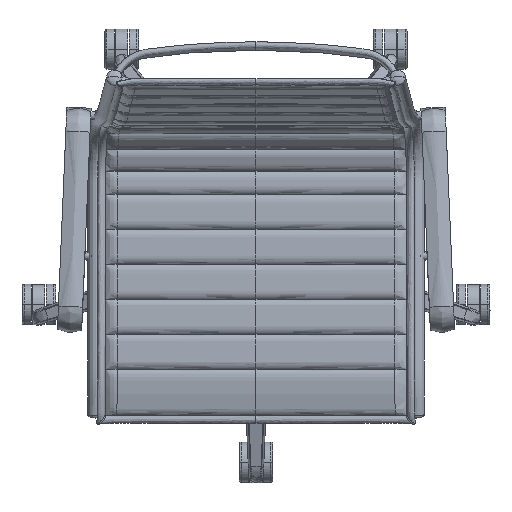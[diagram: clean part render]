
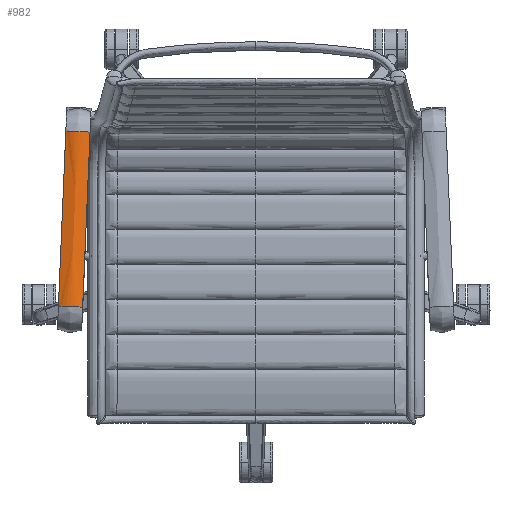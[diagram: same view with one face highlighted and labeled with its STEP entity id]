
A CAD part, top view. The second image highlights one B-rep face of the part: STEP entity #982.
In plain terms, the highlighted free-form (B-spline) face has degree [2, 3] with [3, 4] control points.
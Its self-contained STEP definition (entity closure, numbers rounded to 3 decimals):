
#982=ADVANCED_FACE('',(#1489),#7261,.T.);
#1489=FACE_OUTER_BOUND('',#1999,.T.);
#1999=EDGE_LOOP('',(#3085,#3086,#3087,#3088));
#3085=ORIENTED_EDGE('',*,*,#4930,.T.);
#3086=ORIENTED_EDGE('',*,*,#4934,.F.);
#3087=ORIENTED_EDGE('',*,*,#4933,.F.);
#3088=ORIENTED_EDGE('',*,*,#4932,.F.);
#4930=EDGE_CURVE('',#6621,#6622,#5870,.T.);
#4932=EDGE_CURVE('',#6621,#6623,#5872,.T.);
#4933=EDGE_CURVE('',#6623,#6624,#5873,.T.);
#4934=EDGE_CURVE('',#6624,#6622,#5874,.T.);
#5870=(
BOUNDED_CURVE()
B_SPLINE_CURVE(2,(#24704,#24705,#24706),.UNSPECIFIED.,.F.,.F.)
B_SPLINE_CURVE_WITH_KNOTS((3,3),(0.,37.482),.UNSPECIFIED.)
CURVE()
GEOMETRIC_REPRESENTATION_ITEM()
RATIONAL_B_SPLINE_CURVE((1.,0.882,1.))
REPRESENTATION_ITEM('')
);
#5872=(
BOUNDED_CURVE()
B_SPLINE_CURVE(3,(#24718,#24719,#24720,#24721),.UNSPECIFIED.,.F.,.F.)
B_SPLINE_CURVE_WITH_KNOTS((4,4),(0.,260.717),.UNSPECIFIED.)
CURVE()
GEOMETRIC_REPRESENTATION_ITEM()
RATIONAL_B_SPLINE_CURVE((1.,1.,1.,1.))
REPRESENTATION_ITEM('')
);
#5873=(
BOUNDED_CURVE()
B_SPLINE_CURVE(2,(#24722,#24723,#24724),.UNSPECIFIED.,.F.,.F.)
B_SPLINE_CURVE_WITH_KNOTS((3,3),(0.,37.482),.UNSPECIFIED.)
CURVE()
GEOMETRIC_REPRESENTATION_ITEM()
RATIONAL_B_SPLINE_CURVE((1.,0.882,1.))
REPRESENTATION_ITEM('')
);
#5874=(
BOUNDED_CURVE()
B_SPLINE_CURVE(3,(#24725,#24726,#24727,#24728),.UNSPECIFIED.,.F.,.F.)
B_SPLINE_CURVE_WITH_KNOTS((4,4),(-260.717,0.),.UNSPECIFIED.)
CURVE()
GEOMETRIC_REPRESENTATION_ITEM()
RATIONAL_B_SPLINE_CURVE((1.,1.,1.,1.))
REPRESENTATION_ITEM('')
);
#6621=VERTEX_POINT('',#24476);
#6622=VERTEX_POINT('',#24477);
#6623=VERTEX_POINT('',#24478);
#6624=VERTEX_POINT('',#24479);
#7261=(
BOUNDED_SURFACE()
B_SPLINE_SURFACE(2,3,((#24208,#24209,#24210,#24211),(#24212,#24213,#24214,
#24215),(#24216,#24217,#24218,#24219)),.UNSPECIFIED.,.F.,.F.,.F.)
B_SPLINE_SURFACE_WITH_KNOTS((3,3),(4,4),(0.,37.482),(0.,260.717),
 .UNSPECIFIED.)
GEOMETRIC_REPRESENTATION_ITEM()
RATIONAL_B_SPLINE_SURFACE(((1.,1.,1.,1.),(0.882,0.882,
0.882,0.882),(1.,1.,1.,1.)))
REPRESENTATION_ITEM('')
SURFACE()
);
#24208=CARTESIAN_POINT('',(-293.384,-89.849,688.543));
#24209=CARTESIAN_POINT('',(-289.712,-3.192,683.093));
#24210=CARTESIAN_POINT('',(-286.041,83.465,677.644));
#24211=CARTESIAN_POINT('',(-282.369,170.122,672.195));
#24212=CARTESIAN_POINT('',(-275.382,-90.008,698.138));
#24213=CARTESIAN_POINT('',(-271.711,-3.351,692.689));
#24214=CARTESIAN_POINT('',(-268.039,83.306,687.24));
#24215=CARTESIAN_POINT('',(-264.367,169.963,681.791));
#24216=CARTESIAN_POINT('',(-257.416,-91.371,688.572));
#24217=CARTESIAN_POINT('',(-253.744,-4.714,683.123));
#24218=CARTESIAN_POINT('',(-250.073,81.943,677.673));
#24219=CARTESIAN_POINT('',(-246.401,168.6,672.224));
#24476=CARTESIAN_POINT('',(-293.384,-89.849,688.543));
#24477=CARTESIAN_POINT('',(-257.416,-91.371,688.572));
#24478=CARTESIAN_POINT('',(-282.369,170.122,672.195));
#24479=CARTESIAN_POINT('',(-246.401,168.6,672.224));
#24704=CARTESIAN_POINT('',(-293.384,-89.849,688.543));
#24705=CARTESIAN_POINT('',(-275.382,-90.008,698.138));
#24706=CARTESIAN_POINT('',(-257.416,-91.371,688.572));
#24718=CARTESIAN_POINT('',(-293.384,-89.849,688.543));
#24719=CARTESIAN_POINT('',(-289.712,-3.192,683.093));
#24720=CARTESIAN_POINT('',(-286.041,83.465,677.644));
#24721=CARTESIAN_POINT('',(-282.369,170.122,672.195));
#24722=CARTESIAN_POINT('',(-282.369,170.122,672.195));
#24723=CARTESIAN_POINT('',(-264.367,169.963,681.791));
#24724=CARTESIAN_POINT('',(-246.401,168.6,672.224));
#24725=CARTESIAN_POINT('',(-246.401,168.6,672.224));
#24726=CARTESIAN_POINT('',(-250.073,81.943,677.673));
#24727=CARTESIAN_POINT('',(-253.744,-4.714,683.123));
#24728=CARTESIAN_POINT('',(-257.416,-91.371,688.572));
